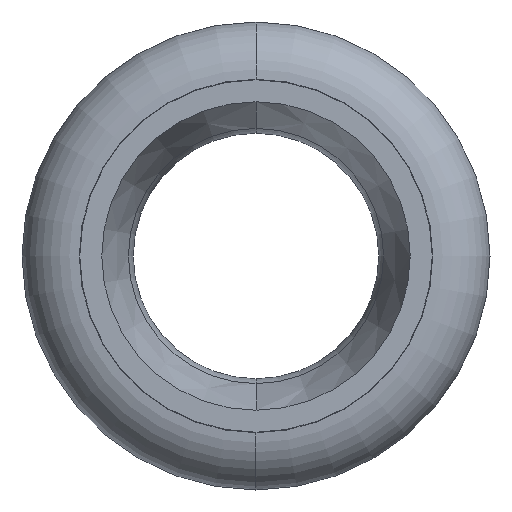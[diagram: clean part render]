
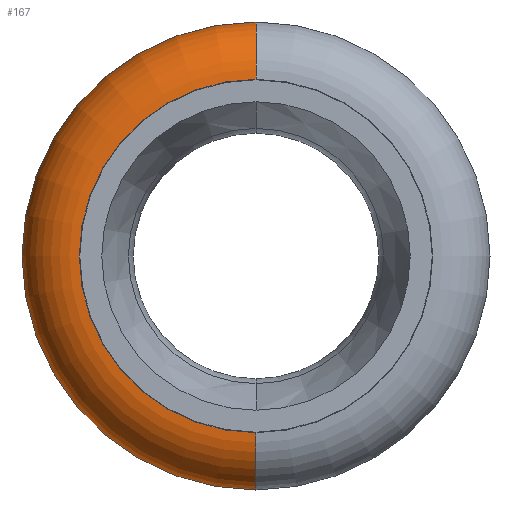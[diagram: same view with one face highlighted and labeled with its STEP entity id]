
A CAD part, left-side view. The second image highlights one B-rep face of the part: STEP entity #167.
In plain terms, the highlighted toroidal (fillet/blend) face has major radius 9.25 mm and minor radius 3 mm.
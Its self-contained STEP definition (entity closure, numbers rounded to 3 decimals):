
#167=ADVANCED_FACE('',(#376),#377,.T.);
#376=FACE_OUTER_BOUND('',#640,.T.);
#377=TOROIDAL_SURFACE('',#641,9.25,3.);
#640=EDGE_LOOP('',(#1053,#1054,#1055,#1056));
#641=AXIS2_PLACEMENT_3D('',#1057,#1058,#1059);
#1053=ORIENTED_EDGE('',*,*,#1495,.T.);
#1054=ORIENTED_EDGE('',*,*,#1577,.F.);
#1055=ORIENTED_EDGE('',*,*,#1578,.F.);
#1056=ORIENTED_EDGE('',*,*,#1579,.F.);
#1057=CARTESIAN_POINT('',(8.,0.0,0.));
#1058=DIRECTION('',(-1.0,0.0,0.));
#1059=DIRECTION('',(0.,0.0,1.0));
#1495=EDGE_CURVE('',#1724,#1723,#1768,.T.);
#1577=EDGE_CURVE('',#1890,#1723,#1891,.T.);
#1578=EDGE_CURVE('',#1892,#1890,#1893,.T.);
#1579=EDGE_CURVE('',#1724,#1892,#1894,.T.);
#1723=VERTEX_POINT('',#2060);
#1724=VERTEX_POINT('',#2061);
#1768=CIRCLE('',#2105,12.25);
#1890=VERTEX_POINT('',#2245);
#1891=CIRCLE('',#2246,3.);
#1892=VERTEX_POINT('',#2247);
#1893=CIRCLE('',#2248,9.25);
#1894=CIRCLE('',#2249,3.);
#2060=CARTESIAN_POINT('',(8.,0.,-12.25));
#2061=CARTESIAN_POINT('',(8.,0.,12.25));
#2105=AXIS2_PLACEMENT_3D('',#2502,#2503,#2504);
#2245=CARTESIAN_POINT('',(5.,0.,-9.25));
#2246=AXIS2_PLACEMENT_3D('',#2652,#2653,#2654);
#2247=CARTESIAN_POINT('',(5.,0.,9.25));
#2248=AXIS2_PLACEMENT_3D('',#2655,#2656,#2657);
#2249=AXIS2_PLACEMENT_3D('',#2658,#2659,#2660);
#2502=CARTESIAN_POINT('',(8.,0.0,0.));
#2503=DIRECTION('',(-1.0,0.0,0.));
#2504=DIRECTION('',(0.,0.0,1.0));
#2652=CARTESIAN_POINT('',(8.,0.,-9.25));
#2653=DIRECTION('',(0.,-1.0,0.));
#2654=DIRECTION('',(0.,0.,-1.0));
#2655=CARTESIAN_POINT('',(5.,0.0,0.));
#2656=DIRECTION('',(-1.0,0.0,0.));
#2657=DIRECTION('',(0.,0.0,-1.0));
#2658=CARTESIAN_POINT('',(8.,0.,9.25));
#2659=DIRECTION('',(0.,-1.0,0.));
#2660=DIRECTION('',(0.,0.,1.0));
